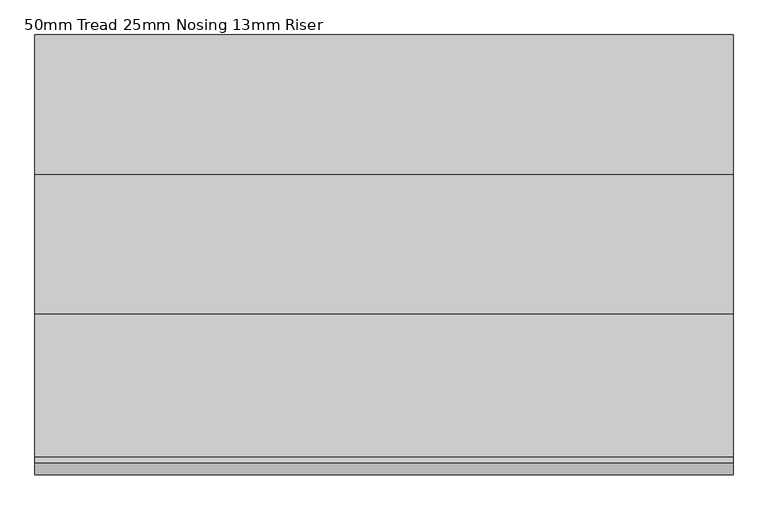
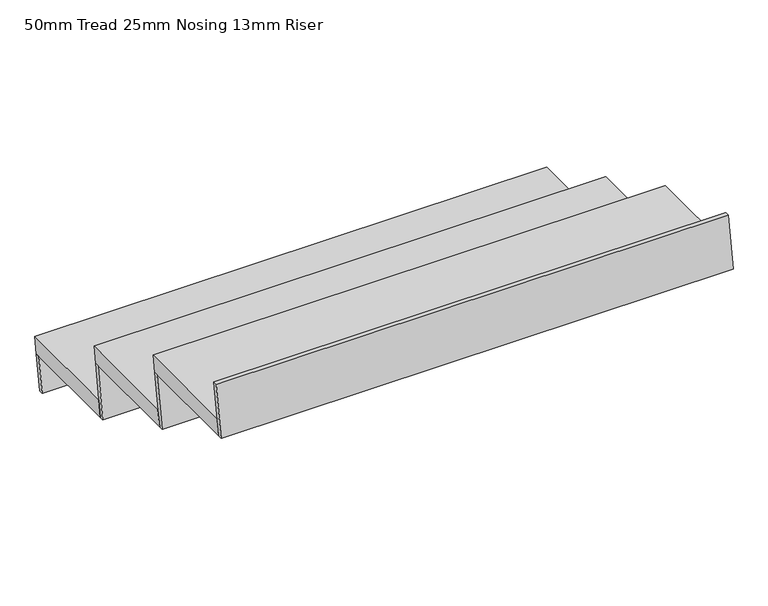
"""IFC4 building model written with IfcOpenShell, lengths in millimetres: stair flight geometry, 50mm Tread 25mm Nosing 13mm Riser."""

from ifc_helpers import new_model, si_unit, frame, origin, place, context, project, spatial, polyline, outline, extrude, source, transform, mapped, element, save


def stair_flight_50mm_tread_25mm_nosing_13mm_riser_e9a0f66c(model_context):
    return source(origin(), model_context, "Body", "SweptSolid", [
        extrude(outline(polyline([(6972.7, -466.725), (7302.5, -466.725), (7294.4652901, -516.725), (6964.6652901, -516.725), (6972.7, -466.725)])), frame((-4580.4296853, 0.0, 0.0), z_axis=(1.0, 0.0, 0.0), x_axis=(0.0, 1.0, 0.0)), (0.0, 0.0, 1.0), 1524.0),
        extrude(outline(polyline([(7294.4652901, -516.725), (7277.5, -622.3), (7264.8396372, -622.3), (7281.8049273, -516.725), (7294.4652901, -516.725)])), frame((-4580.4296853, 0.0, 0.0), z_axis=(1.0, 0.0, 0.0), x_axis=(0.0, 1.0, 0.0)), (0.0, 0.0, 1.0), 1524.0),
        extrude(outline(polyline([(6989.6652901, -361.15), (6964.6652901, -516.725), (6952.0049273, -516.725), (6977.0049273, -361.15), (6989.6652901, -361.15)])), frame((-4580.4296853, 0.0, 0.0), z_axis=(1.0, 0.0, 0.0), x_axis=(0.0, 1.0, 0.0)), (0.0, 0.0, 1.0), 1524.0),
        extrude(outline(polyline([(6667.9, -311.15), (6997.7, -311.15), (6989.6652901, -361.15), (6659.8652901, -361.15), (6667.9, -311.15)])), frame((-4580.4296853, 0.0, 0.0), z_axis=(1.0, 0.0, 0.0), x_axis=(0.0, 1.0, 0.0)), (0.0, 0.0, 1.0), 1524.0),
        extrude(outline(polyline([(6684.8652901, -205.575), (6659.8652901, -361.15), (6647.2049273, -361.15), (6672.2049273, -205.575), (6684.8652901, -205.575)])), frame((-4580.4296853, 0.0, 0.0), z_axis=(1.0, 0.0, 0.0), x_axis=(0.0, 1.0, 0.0)), (0.0, 0.0, 1.0), 1524.0),
        extrude(outline(polyline([(6380.0652901, -50.0), (6355.0652901, -205.575), (6342.4049273, -205.575), (6367.4049273, -50.0), (6380.0652901, -50.0)])), frame((-4580.4296853, 0.0, 0.0), z_axis=(1.0, 0.0, 0.0), x_axis=(0.0, 1.0, 0.0)), (0.0, 0.0, 1.0), 1524.0),
        extrude(outline(polyline([(6363.1, -155.575), (6692.9, -155.575), (6684.8652901, -205.575), (6355.0652901, -205.575), (6363.1, -155.575)])), frame((-4580.4296853, 0.0, 0.0), z_axis=(1.0, 0.0, 0.0), x_axis=(0.0, 1.0, 0.0)), (0.0, 0.0, 1.0), 1524.0),
    ])


if __name__ == "__main__":
    model = new_model("IFC4")
    model_context = context("Model", 3, world=origin())
    ifc_project = project(units=[si_unit("LENGTHUNIT", "METRE", prefix="MILLI")], contexts=[model_context])
    site = spatial("IfcSite", under=ifc_project)
    building = spatial("IfcBuilding", under=site)
    placement = place(None, origin())
    stair_flight_50mm_tread_25mm_nosing_13mm_riser_shape = stair_flight_50mm_tread_25mm_nosing_13mm_riser_e9a0f66c(model_context)
    element("IfcStairFlight", 1, ObjectType="50mm Tread 25mm Nosing 13mm Riser", at=placement, inside=building, context=model_context, shape_type="MappedRepresentation", body=[
        mapped(stair_flight_50mm_tread_25mm_nosing_13mm_riser_shape, transform((0.0, 0.0, 0.0), x_axis=(1.0, 0.0, 0.0), y_axis=(0.0, 1.0, 0.0), z_axis=(0.0, 0.0, 1.0))),
    ])
    save(model, "model.ifc")
